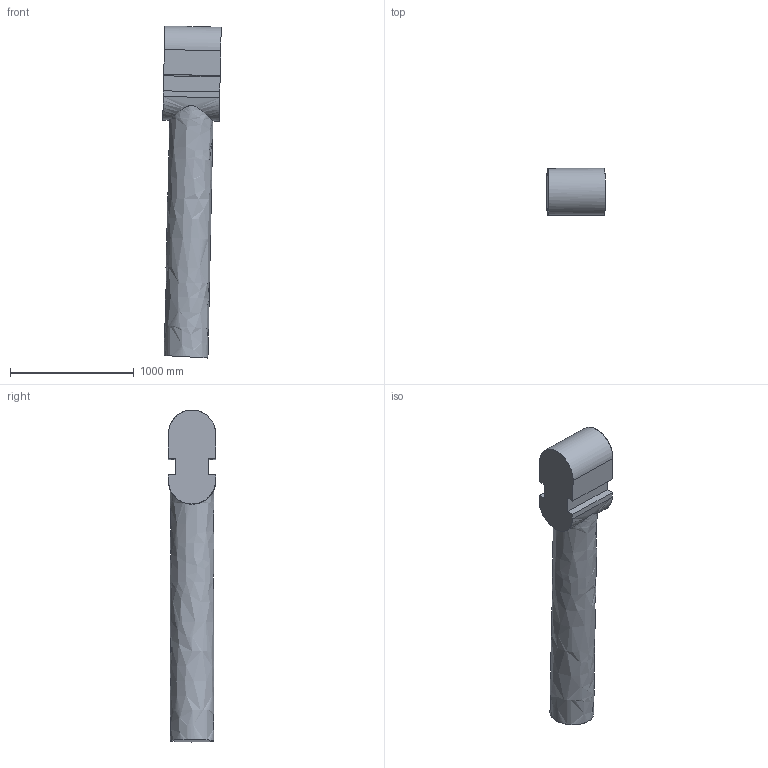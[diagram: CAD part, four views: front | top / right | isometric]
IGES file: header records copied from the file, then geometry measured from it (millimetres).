
Global section: file name: Z:\prj6.0\JFM_2018\outgoing\2022_scanned_data_JFM_0015_w_horn\2022 scans\model in tunnel at 1 deg mod\14x22_mast_in_tunnel_1deg_mod.igs; native system: NX V10.0; preprocessor: SIEMENS PLM Software NX 10.0; date: 20220822.141953; units: millimetre
Bounding box: 471.54 x 380.63 x 2680.77 mm (x, y, z)
Surface area: 3644913.1 mm2 (no closed solid volume)
Topology: 0 solids, 0 shells, 18 faces, 218 edges, 217 vertices
Faces by surface type: bspline 18
